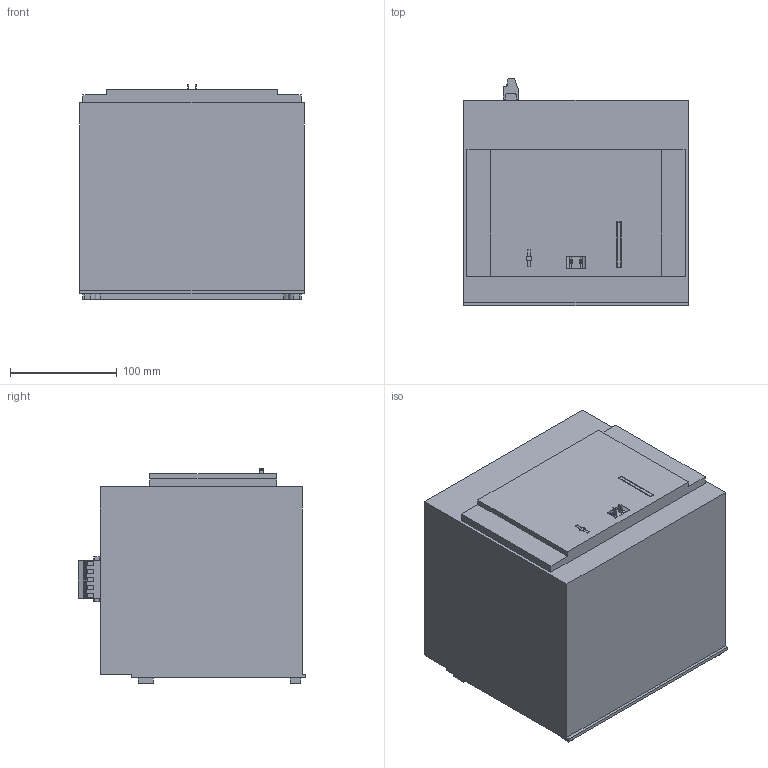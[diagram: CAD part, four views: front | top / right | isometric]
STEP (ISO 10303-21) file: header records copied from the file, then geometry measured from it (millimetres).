
FILE_DESCRIPTION (( 'STEP AP214' ), '1' );
FILE_NAME ('橡桠钿 溻桡囹咫 OptiMat D800, D1000, D1250, D1600-230AC.STEP', '2023-04-03T03:16:30', ( '' ), ( '' ), 'SwSTEP 2.0', 'SolidWorks 2018', '' );
FILE_SCHEMA (( 'AUTOMOTIVE_DESIGN' ));
Length unit declared in the file: millimetre
Products named in the file (1): 橡桠钿 溻桡囹咫 OptiMat D800, D1000, D1250, D1600-230AC
Bounding box: 210 x 212.4 x 200.7 mm (x, y, z)
Volume: 7373528.1 mm3; surface area: 235665.3 mm2
Topology: 1 solids, 1 shells, 188 faces, 479 edges, 318 vertices
Faces by surface type: plane 157, cylinder 31
Entity records: 5647 total; most frequent: CARTESIAN_POINT 986, ORIENTED_EDGE 958, DIRECTION 919, EDGE_CURVE 479, VECTOR 417, LINE 417, VERTEX_POINT 318, AXIS2_PLACEMENT_3D 251
